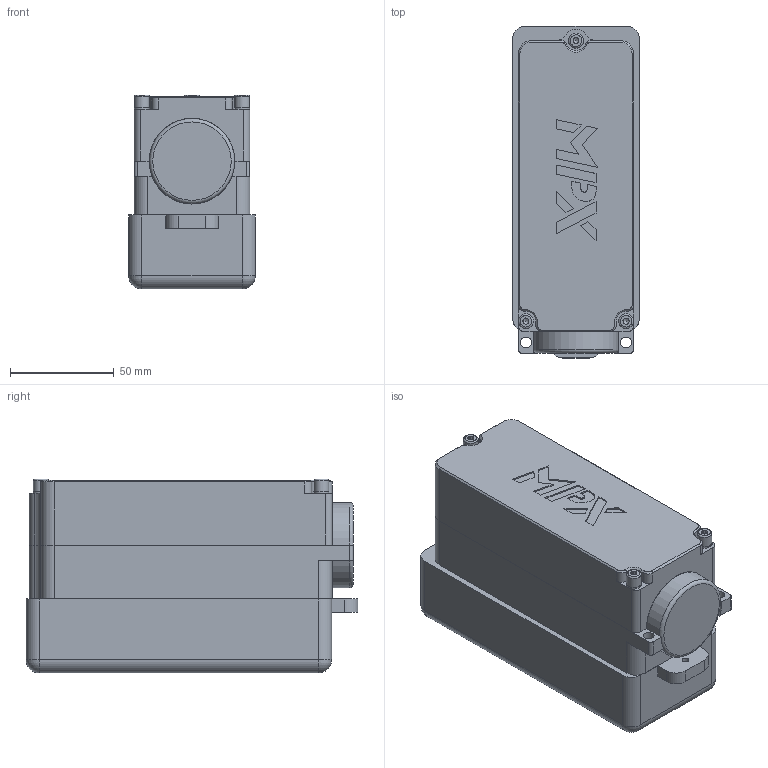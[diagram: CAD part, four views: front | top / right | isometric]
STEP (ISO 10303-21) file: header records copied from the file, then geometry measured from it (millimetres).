
FILE_DESCRIPTION((''),'2;1');
FILE_NAME('C:\old_Drawings\shrinkwrapped website .stp files\562017-STP.stp','2011-11-01T13:43:43',('GaryRobinson'),(''),'Autodesk Inventor 2011','Autodesk Inventor 2011','');
FILE_SCHEMA(('AUTOMOTIVE_DESIGN { 1 0 10303 214 1 1 1 1 }'));
Length unit declared in the file: inch
Products named in the file (1): 562017-STP
Bounding box: 60.96 x 159.77 x 93.24 mm (x, y, z)
Surface area: 63509.7 mm2 (no closed solid volume)
Topology: 0 solids, 11 shells, 157 faces, 630 edges, 459 vertices
Faces by surface type: plane 84, cylinder 50, cone 14, torus 4, sphere 4, bspline 1
Full cylindrical faces by diameter (mm): 2.87 x3, 3.175 x1, 5.207 x2, 7.144 x3, 7.188 x3, 40.945 x1
Entity records: 6834 total; most frequent: CARTESIAN_POINT 1412, DIRECTION 1112, ORIENTED_EDGE 936, EDGE_CURVE 596, VERTEX_POINT 449, VECTOR 374, LINE 374, AXIS2_PLACEMENT_3D 369
